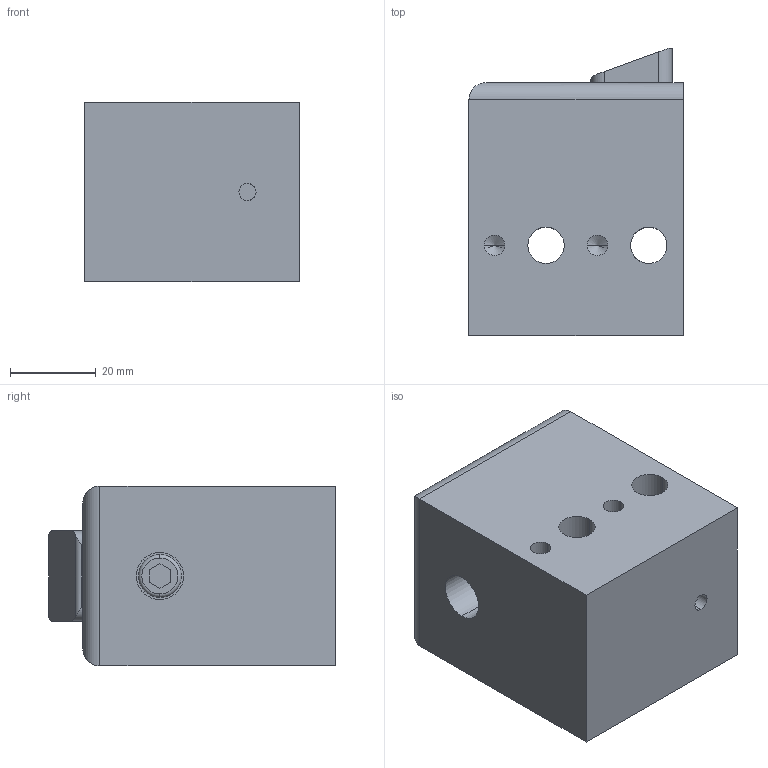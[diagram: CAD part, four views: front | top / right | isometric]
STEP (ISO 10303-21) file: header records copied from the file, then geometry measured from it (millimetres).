
FILE_DESCRIPTION (( 'STEP AP203' ), '1' );
FILE_NAME ('DR.STEP', '2008-07-16T09:42:05', ( '' ), ( '' ), 'SwSTEP 2.0', 'SolidWorks 2007', '' );
FILE_SCHEMA (( 'CONFIG_CONTROL_DESIGN' ));
Length unit declared in the file: millimetre
Products named in the file (1): DR
Bounding box: 50 x 67 x 42 mm (x, y, z)
Volume: 118630.5 mm3; surface area: 23118.9 mm2
Topology: 1 solids, 1 shells, 68 faces, 174 edges, 108 vertices
Faces by surface type: cylinder 31, plane 27, cone 8, torus 2
Entity records: 2169 total; most frequent: CARTESIAN_POINT 455, DIRECTION 346, ORIENTED_EDGE 332, EDGE_CURVE 166, AXIS2_PLACEMENT_3D 125, VERTEX_POINT 108, LINE 96, VECTOR 96
